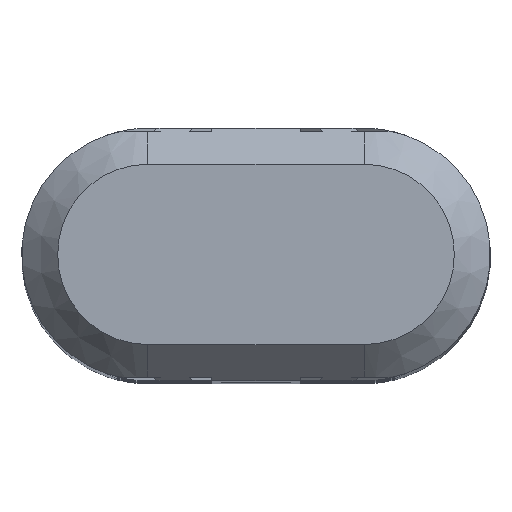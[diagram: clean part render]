
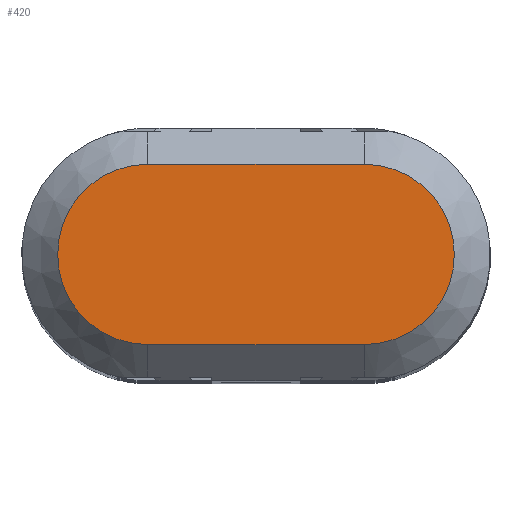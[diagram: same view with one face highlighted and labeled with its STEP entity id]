
A CAD part, top view. The second image highlights one B-rep face of the part: STEP entity #420.
In plain terms, the highlighted planar face has unit normal (0, 0, 1).
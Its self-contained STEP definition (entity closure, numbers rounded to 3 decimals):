
#10=CARTESIAN_POINT('',(13.869,4.044,
-3.));
#20=DIRECTION('',(0.,0.,1.));
#30=DIRECTION('',(-1.,0.,0.));
#40=AXIS2_PLACEMENT_3D('',#10,#20,#30);
#50=PLANE('',#40);
#60=CARTESIAN_POINT('',(7.869,4.044,
-3.));
#70=DIRECTION('',(0.,0.,1.));
#80=DIRECTION('',(-1.,0.,0.));
#90=AXIS2_PLACEMENT_3D('',#60,#70,#80);
#100=CIRCLE('',#90,5.);
#110=CARTESIAN_POINT('',(7.869,9.044,
-3.));
#120=VERTEX_POINT('',#110);
#130=CARTESIAN_POINT('',(7.869,-0.956,
-3.));
#140=VERTEX_POINT('',#130);
#150=EDGE_CURVE('',#120,#140,#100,.T.);
#160=ORIENTED_EDGE('',*,*,#150,.T.);
#170=CARTESIAN_POINT('',(13.869,9.044,
-3.));
#180=DIRECTION('',(-1.,0.,0.));
#190=VECTOR('',#180,1.);
#200=LINE('',#170,#190);
#210=CARTESIAN_POINT('',(19.869,9.044,
-3.));
#220=VERTEX_POINT('',#210);
#230=EDGE_CURVE('',#220,#120,#200,.T.);
#240=ORIENTED_EDGE('',*,*,#230,.T.);
#250=CARTESIAN_POINT('',(19.869,4.044,
-3.));
#260=DIRECTION('',(0.,0.,1.));
#270=DIRECTION('',(-1.,0.,0.));
#280=AXIS2_PLACEMENT_3D('',#250,#260,#270);
#290=CIRCLE('',#280,5.);
#300=CARTESIAN_POINT('',(19.869,-0.956,
-3.));
#310=VERTEX_POINT('',#300);
#320=EDGE_CURVE('',#310,#220,#290,.T.);
#330=ORIENTED_EDGE('',*,*,#320,.T.);
#340=CARTESIAN_POINT('',(13.869,-0.956,
-3.));
#350=DIRECTION('',(1.,0.,0.));
#360=VECTOR('',#350,1.);
#370=LINE('',#340,#360);
#380=EDGE_CURVE('',#140,#310,#370,.T.);
#390=ORIENTED_EDGE('',*,*,#380,.T.);
#400=EDGE_LOOP('',(#390,#330,#240,#160));
#410=FACE_OUTER_BOUND('',#400,.T.);
#420=ADVANCED_FACE('',(#410),#50,.T.);
